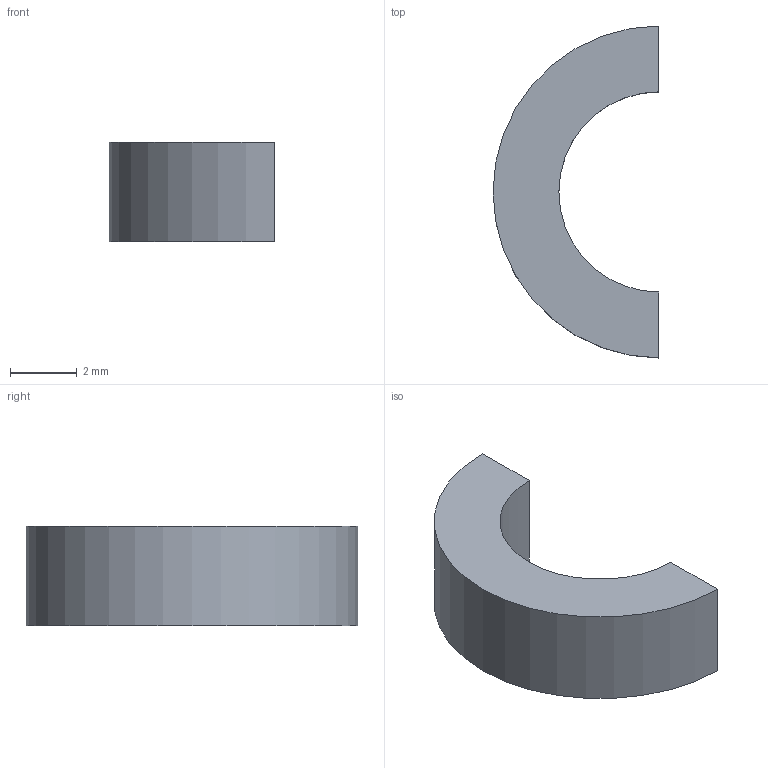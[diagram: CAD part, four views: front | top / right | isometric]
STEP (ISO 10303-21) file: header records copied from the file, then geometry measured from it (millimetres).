
FILE_DESCRIPTION(('Open CASCADE Model'),'2;1');
FILE_NAME('Open CASCADE Shape Model','2026-09-24T19:52:59',('Author'),( 'Open CASCADE'),'Open CASCADE STEP processor 7.8','Open CASCADE 7.8' ,'Unknown');
FILE_SCHEMA(('AUTOMOTIVE_DESIGN { 1 0 10303 214 1 1 1 1 }'));
Length unit declared in the file: millimetre
Products named in the file (1): Open CASCADE STEP translator 7.8 38
Bounding box: 4.99 x 9.98 x 3 mm (x, y, z)
Volume: 74.6 mm3; surface area: 137 mm2
Topology: 1 solids, 1 shells, 6 faces, 12 edges, 8 vertices
Faces by surface type: plane 4, cylinder 2
Entity records: 310 total; most frequent: CARTESIAN_POINT 67, DIRECTION 38, ORIENTED_EDGE 24, PCURVE 24, DEFINITIONAL_REPRESENTATION 24, B_SPLINE_CURVE_WITH_KNOTS 16, EDGE_CURVE 12, SURFACE_CURVE 12
